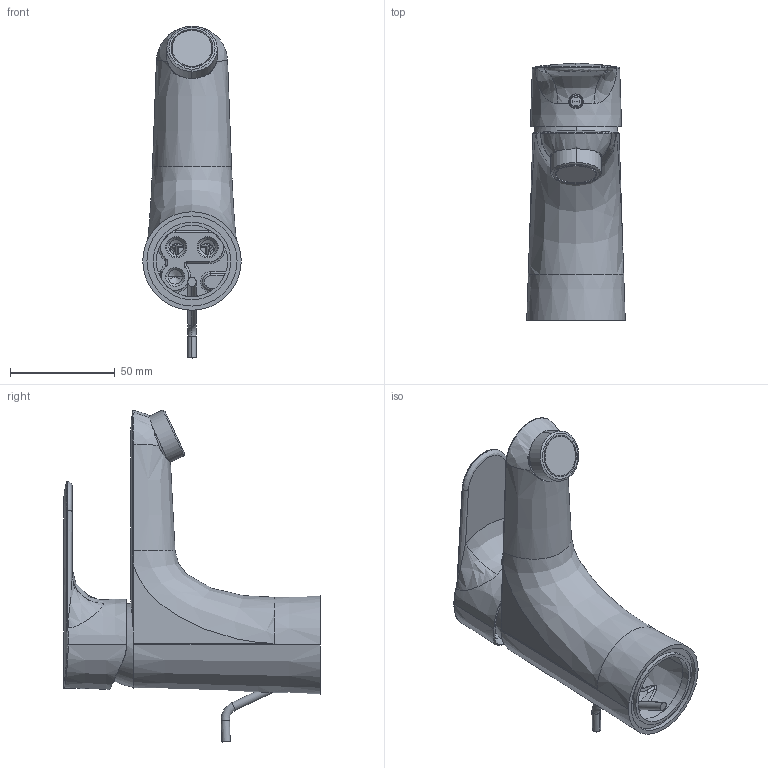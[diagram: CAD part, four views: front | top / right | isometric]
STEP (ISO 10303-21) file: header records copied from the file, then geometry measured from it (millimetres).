
FILE_DESCRIPTION((''),'2;1');
FILE_NAME('F3831_FILE_3D','2017-11-16T',('ivanv'),(''),'CREO PARAMETRIC BY PTC INC, 2016260','CREO PARAMETRIC BY PTC INC, 2016260','');
FILE_SCHEMA(('CONFIG_CONTROL_DESIGN'));
Length unit declared in the file: millimetre
Products named in the file (1): F3831_FILE_3D
Bounding box: 47 x 122.5 x 158.39 mm (x, y, z)
Volume: 98977.6 mm3; surface area: 67290.8 mm2
Topology: 3 solids, 3 shells, 1174 faces, 3070 edges, 1931 vertices
Faces by surface type: plane 669, bspline 218, cylinder 137, cone 65, torus 49, sphere 36
Entity records: 51068 total; most frequent: CARTESIAN_POINT 24911, ORIENTED_EDGE 6124, DIRECTION 4391, EDGE_CURVE 3062, VERTEX_POINT 1931, AXIS2_PLACEMENT_3D 1494, VECTOR 1403, LINE 1403
